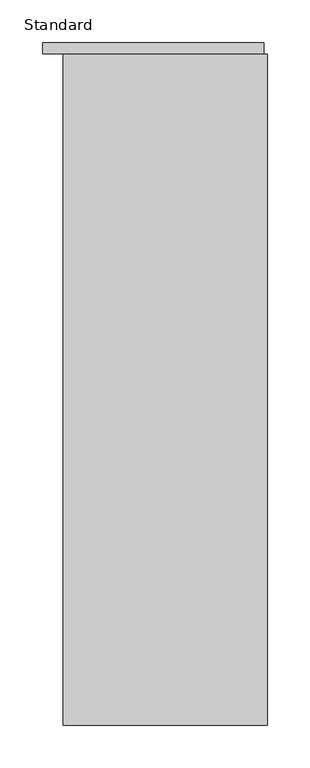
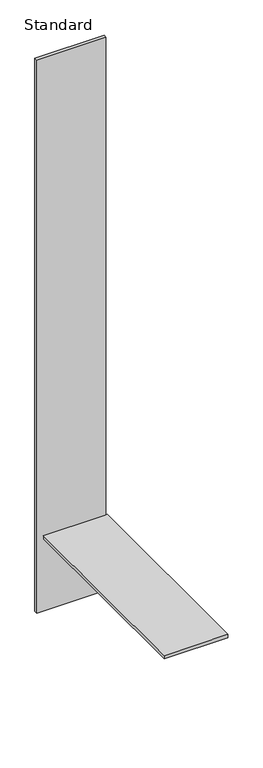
"""IFC4 building model written with IfcOpenShell, lengths in millimetres: furniture geometry, X_Partition-Compact Laminate-Duracube-Shower Seat & Division : Standard."""

from ifc_helpers import new_model, si_unit, frame, origin, place, context, project, spatial, polyline, outline, extrude, source, transform, mapped, element, save


def standard_a09735d1(model_context):
    return source(origin(), model_context, "Body", "SweptSolid", [
        extrude(outline(polyline([(174.7003264, 0.0), (174.7003264, -13.0), (-85.2996736, -13.0), (-85.2996736, 0.0), (174.7003264, 0.0)])), frame((0.0, 0.0, 200.0), z_axis=(0.0, 0.0, 1.0), x_axis=(1.0, 0.0, 0.0)), (0.0, 0.0, 1.0), 2200.0),
        extrude(outline(polyline([(-61.2996736, -800.0), (-61.2996736, -13.0), (178.7003264, -13.0), (178.7003264, -800.0), (-61.2996736, -800.0)])), frame((0.0, 0.0, 487.0), z_axis=(0.0, 0.0, 1.0), x_axis=(1.0, 0.0, 0.0)), (0.0, 0.0, 1.0), 13.0),
    ])


if __name__ == "__main__":
    model = new_model("IFC4")
    model_context = context("Model", 3, world=origin())
    ifc_project = project(units=[si_unit("LENGTHUNIT", "METRE", prefix="MILLI")], contexts=[model_context])
    site = spatial("IfcSite", under=ifc_project)
    building = spatial("IfcBuilding", under=site)
    placement = place(None, origin())
    standard_shape = standard_a09735d1(model_context)
    element("IfcFurniture", 1, ObjectType="X_Partition-Compact Laminate-Duracube-Shower Seat & Division : Standard", at=placement, inside=building, context=model_context, shape_type="MappedRepresentation", body=[
        mapped(standard_shape, transform((0.0, 0.0, 0.0), x_axis=(1.0, 0.0, 0.0), y_axis=(0.0, 1.0, 0.0), z_axis=(0.0, 0.0, 1.0))),
    ])
    save(model, "model.ifc")
